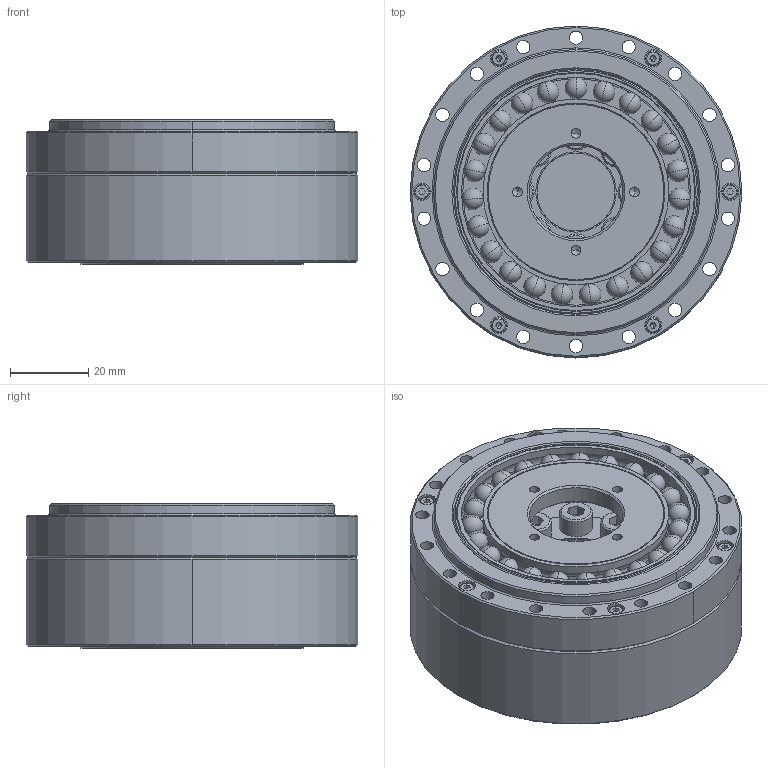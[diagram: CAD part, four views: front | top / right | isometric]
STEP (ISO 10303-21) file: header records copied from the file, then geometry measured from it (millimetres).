
FILE_DESCRIPTION (( 'STEP AP203' ), '1' );
FILE_NAME ('BCD-25-XXX-U-¢ñ.STEP', '2019-01-15T02:42:03', ( 'User' ), ( 'China' ), 'SwSTEP 2.0', 'SolidWorks 2015', '' );
FILE_SCHEMA (( 'CONFIG_CONTROL_DESIGN' ));
Length unit declared in the file: millimetre
Products named in the file (1): BCD-25-XXX-U-ｉ
Bounding box: 85 x 85 x 37.1 mm (x, y, z)
Surface area: 44932.1 mm2 (no closed solid volume)
Topology: 0 solids, 48 shells, 395 faces, 1163 edges, 767 vertices
Faces by surface type: cylinder 158, plane 99, cone 70, sphere 46, torus 22
Entity records: 12338 total; most frequent: DIRECTION 2368, CARTESIAN_POINT 2118, ORIENTED_EDGE 1738, EDGE_CURVE 1024, AXIS2_PLACEMENT_3D 948, VERTEX_POINT 698, CIRCLE 552, EDGE_LOOP 515
